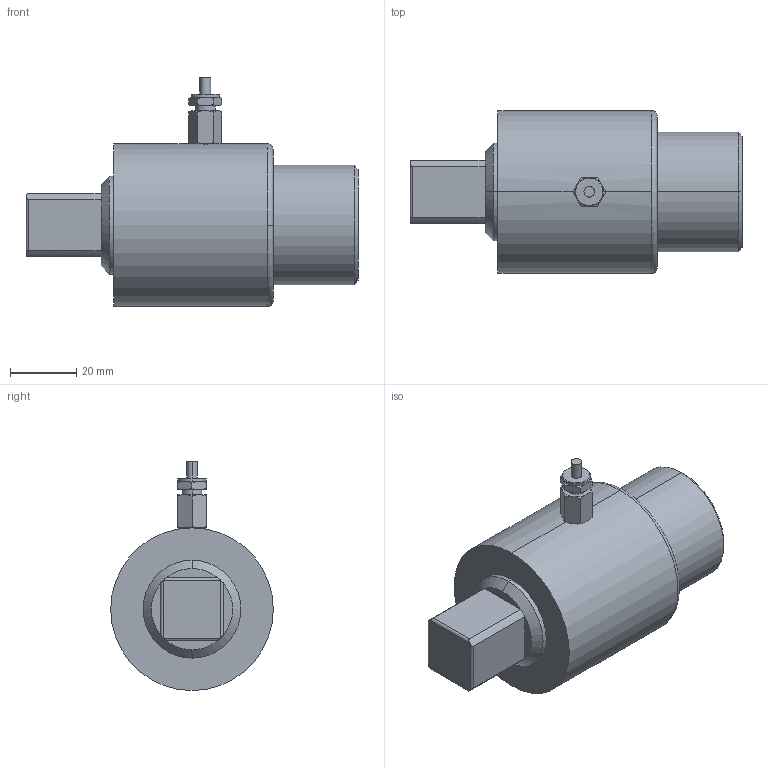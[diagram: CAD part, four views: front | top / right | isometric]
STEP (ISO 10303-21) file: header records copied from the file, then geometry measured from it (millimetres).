
FILE_DESCRIPTION(('STEP AP203'),'1');
FILE_NAME('C:/TPO v2/SharedFS/Outgoing/burster_8632-5500_83fgpfcq2efmzdx95u2aa6zih.stp','2013-08-28T18:24:45',('TraceParts'),('TraceParts S.A.'),'XStep 1.0',' ',' ');
FILE_SCHEMA(('CONFIG_CONTROL_DESIGN'));
Length unit declared in the file: millimetre
Products named in the file (1): 1
Bounding box: 100 x 49 x 69 mm (x, y, z)
Volume: 119405.3 mm3; surface area: 18003 mm2
Topology: 1 solids, 1 shells, 97 faces, 212 edges, 123 vertices
Faces by surface type: cone 38, plane 35, cylinder 22, torus 2
Entity records: 2874 total; most frequent: CARTESIAN_POINT 816, DIRECTION 431, ORIENTED_EDGE 428, EDGE_CURVE 212, AXIS2_PLACEMENT_3D 179, VERTEX_POINT 123, EDGE_LOOP 103, ADVANCED_FACE 97
